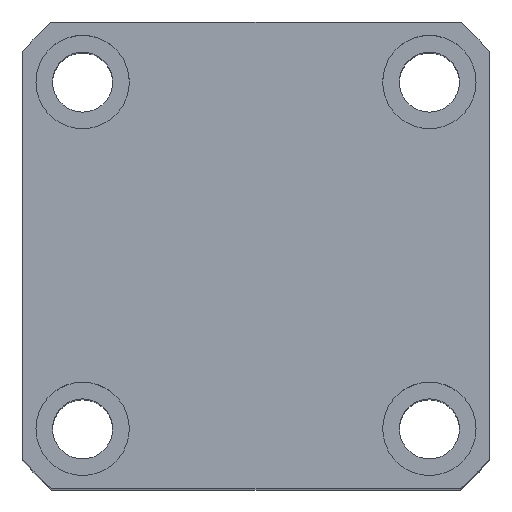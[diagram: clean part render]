
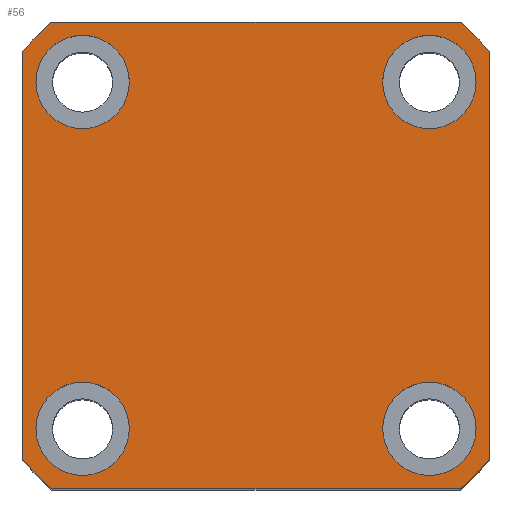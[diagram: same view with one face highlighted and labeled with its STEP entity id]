
A CAD part, top view. The second image highlights one B-rep face of the part: STEP entity #56.
In plain terms, the highlighted planar face has unit normal (0, 0, 1).
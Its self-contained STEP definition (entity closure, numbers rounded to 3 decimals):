
#56 = ADVANCED_FACE ( 'NONE', ( #8008, #5944, #9845, #7767, #5704 ), #7354, .T. ) ;
#57 = ORIENTED_EDGE ( 'NONE', *, *, #2203, .T. ) ;
#108 = EDGE_CURVE ( 'NONE', #2862, #5494, #9359, .T. ) ;
#123 = DIRECTION ( 'NONE',  ( 0., 0., 1. ) ) ;
#186 = CARTESIAN_POINT ( 'NONE',  ( 33., 26., 100. ) ) ;
#240 = EDGE_CURVE ( 'NONE', #546, #644, #4984, .T. ) ;
#277 = VERTEX_POINT ( 'NONE', #752 ) ;
#350 = CARTESIAN_POINT ( 'NONE',  ( 35., 35., 100. ) ) ;
#419 = LINE ( 'NONE', #3424, #2503 ) ;
#541 = DIRECTION ( 'NONE',  ( 0., 0., 1. ) ) ;
#546 = VERTEX_POINT ( 'NONE', #5383 ) ;
#551 = VERTEX_POINT ( 'NONE', #5492 ) ;
#644 = VERTEX_POINT ( 'NONE', #3054 ) ;
#657 = CARTESIAN_POINT ( 'NONE',  ( 26., 26., 100. ) ) ;
#752 = CARTESIAN_POINT ( 'NONE',  ( 30.615, 35., 100. ) ) ;
#920 = ORIENTED_EDGE ( 'NONE', *, *, #3034, .F. ) ;
#969 = VECTOR ( 'NONE', #7546, 1000. ) ;
#1041 = ORIENTED_EDGE ( 'NONE', *, *, #8646, .T. ) ;
#1044 = CARTESIAN_POINT ( 'NONE',  ( -33., 26., 100. ) ) ;
#1071 = DIRECTION ( 'NONE',  ( 0., 0., 1. ) ) ;
#1089 = CIRCLE ( 'NONE', #5935, 7. ) ;
#1138 = DIRECTION ( 'NONE',  ( 0., 1., 0. ) ) ;
#1157 = ORIENTED_EDGE ( 'NONE', *, *, #108, .F. ) ;
#1189 = CARTESIAN_POINT ( 'NONE',  ( -35., 35., 100. ) ) ;
#1214 = VECTOR ( 'NONE', #8124, 1000. ) ;
#1268 = AXIS2_PLACEMENT_3D ( 'NONE', #6514, #1938, #7288 ) ;
#1336 = DIRECTION ( 'NONE',  ( 0., 0., 1. ) ) ;
#1469 = DIRECTION ( 'NONE',  ( 1., 0., 0. ) ) ;
#1515 = EDGE_LOOP ( 'NONE', ( #3350, #1157 ) ) ;
#1612 = EDGE_LOOP ( 'NONE', ( #3806, #8140 ) ) ;
#1938 = DIRECTION ( 'NONE',  ( 0., 0., 1. ) ) ;
#1984 = CARTESIAN_POINT ( 'NONE',  ( 35., 30.615, 100. ) ) ;
#2069 = EDGE_CURVE ( 'NONE', #5494, #2862, #10051, .T. ) ;
#2122 = AXIS2_PLACEMENT_3D ( 'NONE', #7181, #2591, #7970 ) ;
#2187 = CARTESIAN_POINT ( 'NONE',  ( -35., 35., 100. ) ) ;
#2203 = EDGE_CURVE ( 'NONE', #2571, #2408, #5193, .T. ) ;
#2337 = DIRECTION ( 'NONE',  ( 0., 0., 1. ) ) ;
#2408 = VERTEX_POINT ( 'NONE', #9264 ) ;
#2498 = ORIENTED_EDGE ( 'NONE', *, *, #9031, .F. ) ;
#2503 = VECTOR ( 'NONE', #4193, 1000. ) ;
#2518 = EDGE_LOOP ( 'NONE', ( #5728, #3459, #8269, #57, #6935, #8525, #1041, #7914 ) ) ;
#2571 = VERTEX_POINT ( 'NONE', #6340 ) ;
#2591 = DIRECTION ( 'NONE',  ( 0., 0., 1. ) ) ;
#2839 = VERTEX_POINT ( 'NONE', #186 ) ;
#2862 = VERTEX_POINT ( 'NONE', #1044 ) ;
#2879 = EDGE_LOOP ( 'NONE', ( #6802, #920 ) ) ;
#3034 = EDGE_CURVE ( 'NONE', #4022, #2839, #6610, .T. ) ;
#3054 = CARTESIAN_POINT ( 'NONE',  ( 35., -30.615, 100. ) ) ;
#3170 = AXIS2_PLACEMENT_3D ( 'NONE', #3699, #1336, #9234 ) ;
#3228 = EDGE_LOOP ( 'NONE', ( #9741, #2498 ) ) ;
#3232 = DIRECTION ( 'NONE',  ( 0., 0., 1. ) ) ;
#3350 = ORIENTED_EDGE ( 'NONE', *, *, #2069, .F. ) ;
#3424 = CARTESIAN_POINT ( 'NONE',  ( -35., -35., 100. ) ) ;
#3428 = EDGE_CURVE ( 'NONE', #8729, #277, #9307, .T. ) ;
#3446 = VERTEX_POINT ( 'NONE', #7939 ) ;
#3459 = ORIENTED_EDGE ( 'NONE', *, *, #3428, .T. ) ;
#3699 = CARTESIAN_POINT ( 'NONE',  ( 0., 0., 100. ) ) ;
#3756 = CIRCLE ( 'NONE', #7878, 7. ) ;
#3806 = ORIENTED_EDGE ( 'NONE', *, *, #5083, .F. ) ;
#3808 = DIRECTION ( 'NONE',  ( 0., 0., 1. ) ) ;
#3875 = EDGE_CURVE ( 'NONE', #277, #2571, #6847, .T. ) ;
#4022 = VERTEX_POINT ( 'NONE', #7638 ) ;
#4193 = DIRECTION ( 'NONE',  ( 1., 0., 0. ) ) ;
#4225 = CIRCLE ( 'NONE', #8544, 7. ) ;
#4265 = AXIS2_PLACEMENT_3D ( 'NONE', #6916, #2337, #7699 ) ;
#4314 = CARTESIAN_POINT ( 'NONE',  ( -26., 26., 100. ) ) ;
#4348 = CIRCLE ( 'NONE', #4587, 7. ) ;
#4363 = DIRECTION ( 'NONE',  ( 1., 0., 0. ) ) ;
#4403 = DIRECTION ( 'NONE',  ( 0., 0., 1. ) ) ;
#4542 = VERTEX_POINT ( 'NONE', #9220 ) ;
#4587 = AXIS2_PLACEMENT_3D ( 'NONE', #657, #6066, #1469 ) ;
#4596 = CARTESIAN_POINT ( 'NONE',  ( -19., 26., 100. ) ) ;
#4646 = AXIS2_PLACEMENT_3D ( 'NONE', #8421, #3808, #9209 ) ;
#4757 = CARTESIAN_POINT ( 'NONE',  ( 26., -26., 100. ) ) ;
#4984 = CIRCLE ( 'NONE', #8837, 46.5 ) ;
#4988 = VERTEX_POINT ( 'NONE', #10008 ) ;
#5052 = DIRECTION ( 'NONE',  ( 1., 0., 0. ) ) ;
#5079 = DIRECTION ( 'NONE',  ( 1., 0., 0. ) ) ;
#5083 = EDGE_CURVE ( 'NONE', #6097, #4542, #3756, .T. ) ;
#5142 = EDGE_CURVE ( 'NONE', #2408, #8785, #7352, .T. ) ;
#5181 = CARTESIAN_POINT ( 'NONE',  ( 0., 0., 100. ) ) ;
#5193 = CIRCLE ( 'NONE', #9427, 46.5 ) ;
#5213 = AXIS2_PLACEMENT_3D ( 'NONE', #5845, #9901, #5052 ) ;
#5304 = VECTOR ( 'NONE', #1138, 1000. ) ;
#5383 = CARTESIAN_POINT ( 'NONE',  ( 30.615, -35., 100. ) ) ;
#5411 = EDGE_CURVE ( 'NONE', #2839, #4022, #4348, .T. ) ;
#5492 = CARTESIAN_POINT ( 'NONE',  ( -19., -26., 100. ) ) ;
#5494 = VERTEX_POINT ( 'NONE', #4596 ) ;
#5530 = DIRECTION ( 'NONE',  ( 1., 0., 0. ) ) ;
#5681 = CARTESIAN_POINT ( 'NONE',  ( -26., -26., 100. ) ) ;
#5704 = FACE_OUTER_BOUND ( 'NONE', #2518, .T. ) ;
#5728 = ORIENTED_EDGE ( 'NONE', *, *, #6441, .T. ) ;
#5845 = CARTESIAN_POINT ( 'NONE',  ( -26., 26., 100. ) ) ;
#5935 = AXIS2_PLACEMENT_3D ( 'NONE', #4757, #123, #5530 ) ;
#5942 = DIRECTION ( 'NONE',  ( 1., 0., 0. ) ) ;
#5944 = FACE_BOUND ( 'NONE', #1612, .T. ) ;
#6038 = EDGE_CURVE ( 'NONE', #4542, #6097, #1089, .T. ) ;
#6066 = DIRECTION ( 'NONE',  ( 0., 0., 1. ) ) ;
#6097 = VERTEX_POINT ( 'NONE', #9401 ) ;
#6313 = EDGE_CURVE ( 'NONE', #551, #4988, #4225, .T. ) ;
#6340 = CARTESIAN_POINT ( 'NONE',  ( -30.615, 35., 100. ) ) ;
#6441 = EDGE_CURVE ( 'NONE', #644, #8729, #9437, .T. ) ;
#6455 = DIRECTION ( 'NONE',  ( 1., 0., 0. ) ) ;
#6514 = CARTESIAN_POINT ( 'NONE',  ( 26., 26., 100. ) ) ;
#6558 = CIRCLE ( 'NONE', #4265, 46.5 ) ;
#6610 = CIRCLE ( 'NONE', #1268, 7. ) ;
#6802 = ORIENTED_EDGE ( 'NONE', *, *, #5411, .F. ) ;
#6847 = LINE ( 'NONE', #2187, #969 ) ;
#6916 = CARTESIAN_POINT ( 'NONE',  ( 0., 0., 100. ) ) ;
#6931 = CIRCLE ( 'NONE', #4646, 7. ) ;
#6935 = ORIENTED_EDGE ( 'NONE', *, *, #5142, .T. ) ;
#7181 = CARTESIAN_POINT ( 'NONE',  ( 0., 0., 100. ) ) ;
#7288 = DIRECTION ( 'NONE',  ( 1., 0., 0. ) ) ;
#7315 = AXIS2_PLACEMENT_3D ( 'NONE', #4314, #9728, #5079 ) ;
#7352 = LINE ( 'NONE', #1189, #1214 ) ;
#7354 = PLANE ( 'NONE',  #3170 ) ;
#7546 = DIRECTION ( 'NONE',  ( -1., 0., 0. ) ) ;
#7638 = CARTESIAN_POINT ( 'NONE',  ( 19., 26., 100. ) ) ;
#7699 = DIRECTION ( 'NONE',  ( 1., 0., 0. ) ) ;
#7767 = FACE_BOUND ( 'NONE', #1515, .T. ) ;
#7824 = CARTESIAN_POINT ( 'NONE',  ( 26., -26., 100. ) ) ;
#7878 = AXIS2_PLACEMENT_3D ( 'NONE', #7824, #3232, #8617 ) ;
#7914 = ORIENTED_EDGE ( 'NONE', *, *, #240, .T. ) ;
#7939 = CARTESIAN_POINT ( 'NONE',  ( -30.615, -35., 100. ) ) ;
#7970 = DIRECTION ( 'NONE',  ( 1., 0., 0. ) ) ;
#8008 = FACE_BOUND ( 'NONE', #3228, .T. ) ;
#8116 = CARTESIAN_POINT ( 'NONE',  ( -35., -30.615, 100. ) ) ;
#8124 = DIRECTION ( 'NONE',  ( 0., -1., 0. ) ) ;
#8140 = ORIENTED_EDGE ( 'NONE', *, *, #6038, .F. ) ;
#8202 = CARTESIAN_POINT ( 'NONE',  ( 0., 0., 100. ) ) ;
#8269 = ORIENTED_EDGE ( 'NONE', *, *, #3875, .T. ) ;
#8421 = CARTESIAN_POINT ( 'NONE',  ( -26., -26., 100. ) ) ;
#8525 = ORIENTED_EDGE ( 'NONE', *, *, #9454, .T. ) ;
#8544 = AXIS2_PLACEMENT_3D ( 'NONE', #5681, #1071, #6455 ) ;
#8617 = DIRECTION ( 'NONE',  ( 1., 0., 0. ) ) ;
#8646 = EDGE_CURVE ( 'NONE', #3446, #546, #419, .T. ) ;
#8729 = VERTEX_POINT ( 'NONE', #1984 ) ;
#8785 = VERTEX_POINT ( 'NONE', #8116 ) ;
#8837 = AXIS2_PLACEMENT_3D ( 'NONE', #8202, #4403, #4363 ) ;
#9031 = EDGE_CURVE ( 'NONE', #4988, #551, #6931, .T. ) ;
#9209 = DIRECTION ( 'NONE',  ( 1., 0., 0. ) ) ;
#9220 = CARTESIAN_POINT ( 'NONE',  ( 19., -26., 100. ) ) ;
#9234 = DIRECTION ( 'NONE',  ( 1., 0., 0. ) ) ;
#9264 = CARTESIAN_POINT ( 'NONE',  ( -35., 30.615, 100. ) ) ;
#9307 = CIRCLE ( 'NONE', #2122, 46.5 ) ;
#9359 = CIRCLE ( 'NONE', #5213, 7. ) ;
#9401 = CARTESIAN_POINT ( 'NONE',  ( 33., -26., 100. ) ) ;
#9427 = AXIS2_PLACEMENT_3D ( 'NONE', #5181, #541, #5942 ) ;
#9437 = LINE ( 'NONE', #350, #5304 ) ;
#9454 = EDGE_CURVE ( 'NONE', #8785, #3446, #6558, .T. ) ;
#9728 = DIRECTION ( 'NONE',  ( 0., 0., 1. ) ) ;
#9741 = ORIENTED_EDGE ( 'NONE', *, *, #6313, .F. ) ;
#9845 = FACE_BOUND ( 'NONE', #2879, .T. ) ;
#9901 = DIRECTION ( 'NONE',  ( 0., 0., 1. ) ) ;
#10008 = CARTESIAN_POINT ( 'NONE',  ( -33., -26., 100. ) ) ;
#10051 = CIRCLE ( 'NONE', #7315, 7. ) ;
